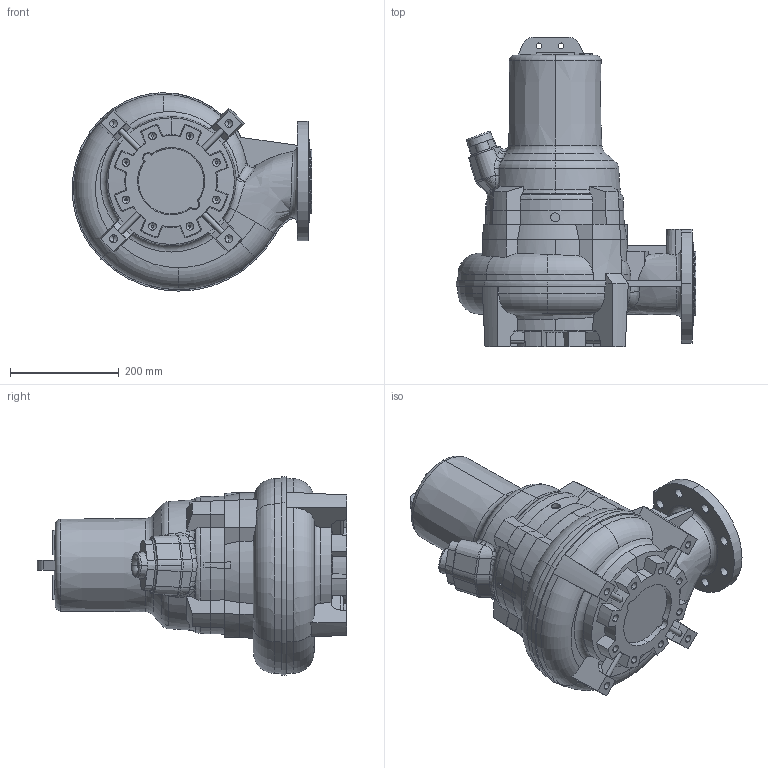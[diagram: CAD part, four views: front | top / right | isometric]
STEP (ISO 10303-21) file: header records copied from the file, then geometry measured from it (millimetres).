
FILE_DESCRIPTION (( 'STEP AP203' ), '1' );
FILE_NAME ('100FWC-M_2,2-3,1kW.STEP', '2025-03-21T10:25:27', ( '' ), ( '' ), 'SwSTEP 2.0', 'SolidWorks 2023', '' );
FILE_SCHEMA (( 'CONFIG_CONTROL_DESIGN' ));
Length unit declared in the file: millimetre
Products named in the file (1): 100FWC-M_2,2-3,1kW
Bounding box: 441.26 x 570 x 365.91 mm (x, y, z)
Volume: 28519416.4 mm3; surface area: 776536.8 mm2
Topology: 1 solids, 2 shells, 632 faces, 1670 edges, 1066 vertices
Faces by surface type: plane 258, cone 159, bspline 77, cylinder 71, torus 58, sphere 9
Entity records: 27257 total; most frequent: CARTESIAN_POINT 12289, ORIENTED_EDGE 3316, DIRECTION 2890, EDGE_CURVE 1658, AXIS2_PLACEMENT_3D 1172, VERTEX_POINT 1066, EDGE_LOOP 690, FACE_OUTER_BOUND 632
